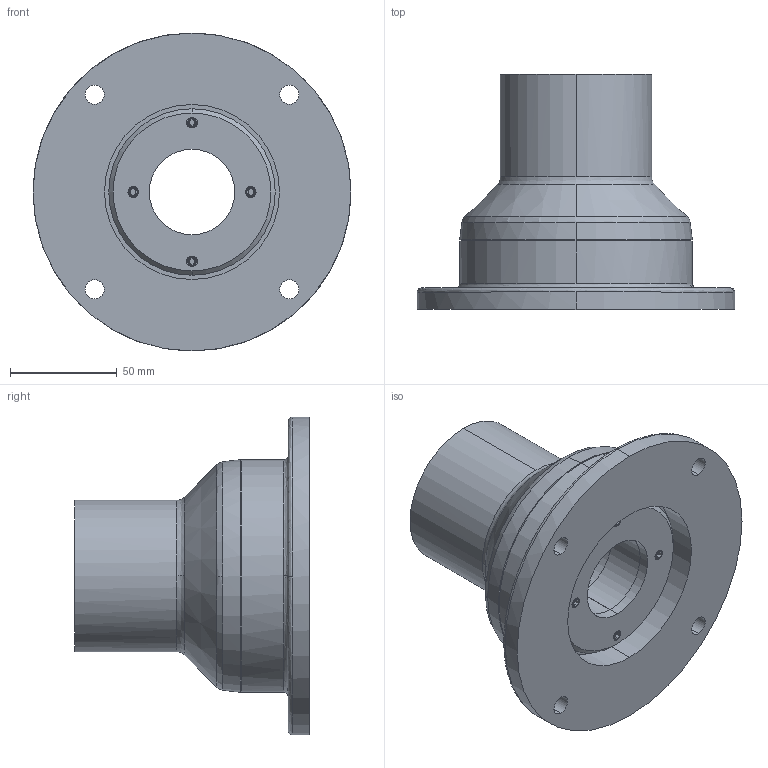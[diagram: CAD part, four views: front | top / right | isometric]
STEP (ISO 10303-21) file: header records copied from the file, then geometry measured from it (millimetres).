
FILE_DESCRIPTION (( 'STEP AP203' ), '1' );
FILE_NAME ('ccss48bbcre.STEP', '2019-05-20T18:50:25', ( '' ), ( '' ), 'SwSTEP 2.0', 'SolidWorks 2016', '' );
FILE_SCHEMA (( 'CONFIG_CONTROL_DESIGN' ));
Length unit declared in the file: millimetre
Products named in the file (1): ccss48bbcre
Bounding box: 149 x 110 x 149 mm (x, y, z)
Volume: 619023.9 mm3; surface area: 122467.3 mm2
Topology: 8 solids, 8 shells, 159 faces, 386 edges, 242 vertices
Faces by surface type: cylinder 65, plane 51, cone 33, bspline 10
Entity records: 5098 total; most frequent: CARTESIAN_POINT 1278, DIRECTION 815, ORIENTED_EDGE 740, EDGE_CURVE 370, AXIS2_PLACEMENT_3D 321, VERTEX_POINT 242, EDGE_LOOP 196, LINE 173
